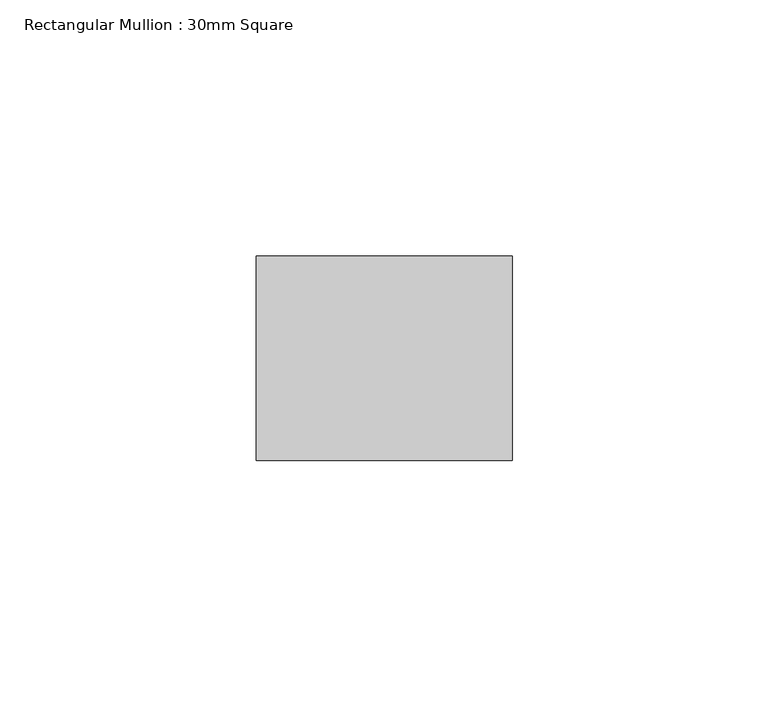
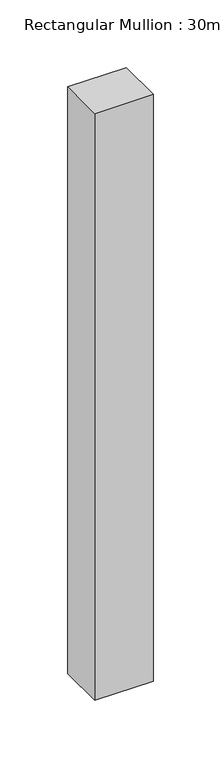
"""IFC4 building model written with IfcOpenShell, lengths in millimetres: member geometry, Rectangular Mullion : 30mm Square."""

from ifc_helpers import new_model, si_unit, frame, origin, place, context, project, spatial, polyline, outline, extrude, source, transform, mapped, element, save


def rectangular_mullion_30mm_square_ad176692(model_context):
    return source(origin(), model_context, "Body", "SweptSolid", [
        extrude(outline(polyline([(0.0, 20.0), (0.0, -20.0), (-50.0, -20.0), (-50.0, 20.0), (0.0, 20.0)])), frame((0.0, 0.0, -530.0), z_axis=(0.0, 0.0, 1.0), x_axis=(1.0, 0.0, 0.0)), (0.0, 0.0, 1.0), 530.0),
    ])


if __name__ == "__main__":
    model = new_model("IFC4")
    model_context = context("Model", 3, world=origin())
    ifc_project = project(units=[si_unit("LENGTHUNIT", "METRE", prefix="MILLI")], contexts=[model_context])
    site = spatial("IfcSite", under=ifc_project)
    building = spatial("IfcBuilding", under=site)
    placement = place(None, origin())
    rectangular_mullion_30mm_square_shape = rectangular_mullion_30mm_square_ad176692(model_context)
    element("IfcMember", 1, ObjectType="Rectangular Mullion : 30mm Square", at=placement, inside=building, context=model_context, shape_type="MappedRepresentation", body=[
        mapped(rectangular_mullion_30mm_square_shape, transform((0.0, 0.0, 0.0), x_axis=(1.0, 0.0, 0.0), y_axis=(0.0, 1.0, 0.0), z_axis=(0.0, 0.0, 1.0))),
    ])
    save(model, "model.ifc")
